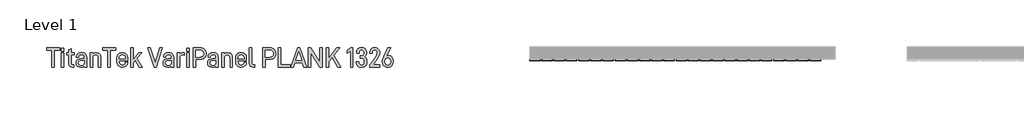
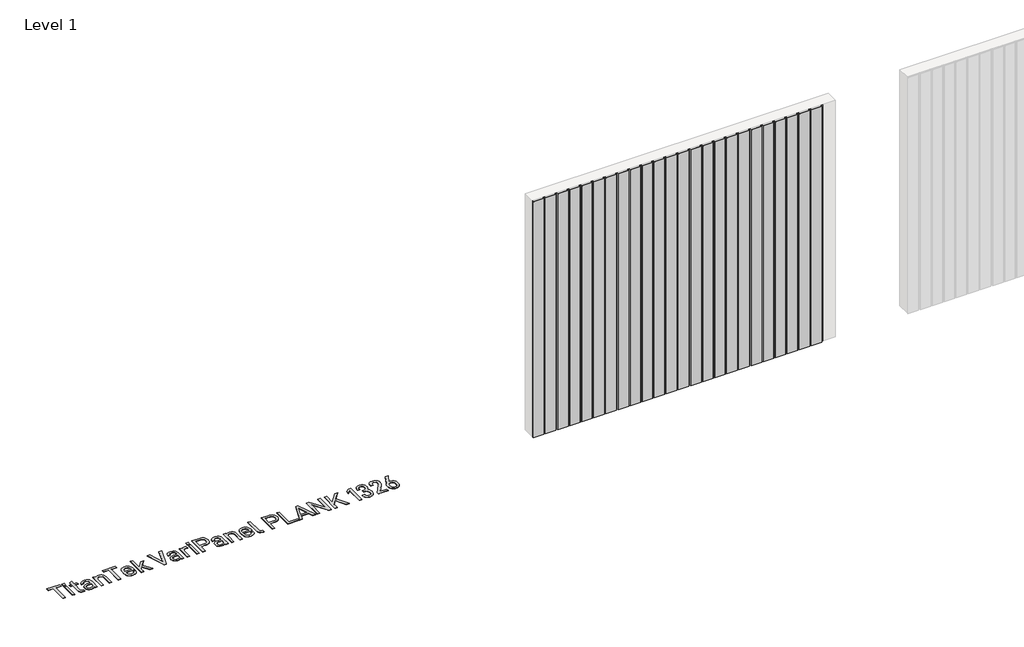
# One storey, part 20 of 33: 2 proxies.
"""IFC4 building model written with IfcOpenShell, lengths in millimetres."""

from ifc_helpers import new_model, si_unit, origin, origin_with_axes, place, context, project, spatial, polyline, outline, extrude, transform, mapped, element, save
from components import aluminum_slate_gray_b45d79fe

model = new_model("IFC4")

# Units and contexts
model_context = context("Model", 3, world=origin())
ifc_project = project(units=[si_unit("LENGTHUNIT", "METRE", prefix="MILLI")], contexts=[model_context])

# Site, building, storey
site = spatial("IfcSite", under=ifc_project)
building = spatial("IfcBuilding", under=site)
storey = spatial("IfcBuildingStorey", under=building, Name="Level 1", Elevation=0.0)

# Proxies
placement = place(None, origin())
element("IfcBuildingElementProxy", 1, Name="600mm Arial 2", ObjectType="600mm Arial 2", at=placement, inside=storey, context=model_context, shape_type="SweptSolid", body=[
    extrude(outline(polyline([(-9914.9924556, 62220.4128343), (-9914.9924556, 61952.9873502), (-9954.4439015, 61952.9873502), (-9954.4439015, 62220.4128343), (-10038.8787304, 62220.4128343), (-10038.8787304, 62257.3166776), (-9830.5576267, 62257.3166776), (-9830.5576267, 62220.4128343), (-9914.9924556, 62220.4128343)])), origin_with_axes(), (0.0, 0.0, 1.0), 5.0),
    extrude(outline(polyline([(-9763.1553408, 62253.0221475), (-9763.1553408, 62205.8551051), (-9802.6067867, 62205.8551051), (-9802.6067867, 62253.0221475), (-9763.1553408, 62253.0221475)])), origin_with_axes(), (0.0, 0.0, 1.0), 5.0),
    extrude(outline(polyline([(-9764.0288046, 62178.8505176), (-9764.0288046, 61952.9873502), (-9801.733323, 61952.9873502), (-9801.733323, 62178.8505176), (-9764.0288046, 62178.8505176)])), origin_with_axes(), (0.0, 0.0, 1.0), 5.0),
    extrude(outline(polyline([(-9648.294858, 62012.601251), (-9646.8208879, 62001.5191797), (-9642.3989777, 61993.6034145), (-9635.0291273, 61988.8539554), (-9624.7113368, 61987.2708023), (-9603.2386864, 61987.2708023), (-9603.2386864, 61952.9873502), (-9629.3698101, 61952.9873502), (-9653.1535001, 61956.9543314), (-9671.3688587, 61968.855275), (-9682.6692959, 61987.3981825), (-9686.4361083, 62011.2910554), (-9686.4361083, 62147.1146681), (-9720.2828285, 62147.1146681), (-9720.2828285, 62178.8505176), (-9686.4361083, 62178.8505176), (-9686.4361083, 62226.8910237), (-9648.294858, 62244.8698192), (-9648.294858, 62178.8505176), (-9599.3808881, 62178.8505176), (-9599.3808881, 62147.1146681), (-9648.294858, 62147.1146681), (-9648.294858, 62012.601251)])), origin_with_axes(), (0.0, 0.0, 1.0), 5.0),
    extrude(outline(polyline([(-9422.8684225, 62162.1091291), (-9413.2830677, 62151.3409589), (-9406.4363858, 62138.2526505), (-9400.9590402, 62105.1156196), (-9400.9590402, 61952.9873502), (-9438.2996154, 61952.9873502), (-9438.2996154, 61969.2920069), (-9456.7151427, 61956.8451485), (-9473.7476858, 61952.0410978), (-9493.9829293, 61950.4397476), (-9526.0281305, 61954.7160806), (-9550.1029751, 61967.5450794), (-9565.2248162, 61989.3270816), (-9570.2654299, 62018.5699199), (-9565.1338304, 62046.2114081), (-9549.7390318, 62067.4111012), (-9525.063681, 62080.6222403), (-9493.1094655, 62085.0259534), (-9438.7363472, 62085.0259534), (-9438.7363472, 62105.5523515), (-9441.6296959, 62124.441005), (-9450.3097419, 62138.1616647), (-9464.2305704, 62146.1866129), (-9483.7197302, 62148.8615956), (-9502.2262434, 62146.6051476), (-9515.819523, 62139.8358036), (-9524.1720201, 62129.4816187), (-9526.9561857, 62115.4516073), (-9526.9561857, 62109.8468816), (-9563.8600291, 62109.8468816), (-9563.8600291, 62116.2522824), (-9558.4008807, 62143.2932642), (-9542.0234354, 62164.2927885), (-9516.8203668, 62177.4493362), (-9484.1564621, 62181.8348521), (-9448.6719974, 62176.9034213), (-9434.5600987, 62170.7391329), (-9422.8684225, 62162.1091291)]), holes=[polyline([(-9450.6736851, 61994.5496669), (-9441.7206817, 62009.4531421), (-9438.7363472, 62031.0167784), (-9438.7363472, 62054.9642428), (-9488.8149354, 62054.9642428), (-9507.9538, 62052.7168933), (-9521.6244175, 62045.974845), (-9529.826788, 62034.7380979), (-9532.5609115, 62019.0066518), (-9529.8540837, 62003.0522906), (-9521.7336004, 61991.6563182), (-9508.1994616, 61984.8187348), (-9489.2516673, 61982.5395404), (-9466.104878, 61985.542072), (-9450.6736851, 61994.5496669)])]), origin_with_axes(), (0.0, 0.0, 1.0), 5.0),
    extrude(outline(polyline([(-9306.6977441, 62178.8505176), (-9306.6977441, 62160.4349903), (-9288.2822167, 62173.6825238), (-9271.1222935, 62179.4692211), (-9252.2518372, 62181.3981202), (-9219.9154813, 62175.9389718), (-9206.7907787, 62169.1150363), (-9195.6950595, 62159.5615265), (-9187.0650557, 62147.9790333), (-9180.9007673, 62134.1946835), (-9175.9693365, 62100.0204144), (-9175.9693365, 61952.9873502), (-9213.673855, 61952.9873502), (-9213.673855, 62095.7258843), (-9216.6763866, 62118.1083928), (-9225.6839815, 62133.8671346), (-9240.3781893, 62143.4752358), (-9259.567096, 62146.6779363), (-9278.7378056, 62143.4752358), (-9293.3774219, 62133.8671346), (-9303.0401146, 62117.453295), (-9306.2610122, 62095.7258843), (-9306.2610122, 61952.9873502), (-9343.9655306, 61952.9873502), (-9343.9655306, 62178.8505176), (-9306.6977441, 62178.8505176)])), origin_with_axes(), (0.0, 0.0, 1.0), 5.0),
    extrude(outline(polyline([(-9025.2240514, 62220.4128343), (-9025.2240514, 61952.9873502), (-9064.6754974, 61952.9873502), (-9064.6754974, 62220.4128343), (-9149.1103263, 62220.4128343), (-9149.1103263, 62257.3166776), (-8940.7892225, 62257.3166776), (-8940.7892225, 62220.4128343), (-9025.2240514, 62220.4128343)])), origin_with_axes(), (0.0, 0.0, 1.0), 5.0),
    extrude(outline(polyline([(-8884.5235994, 62047.2486463), (-8881.1025331, 62017.8329349), (-8870.8393341, 61998.8805913), (-8854.3527058, 61988.5900965), (-8832.2613519, 61985.1599316), (-8812.990558, 61987.7257314), (-8798.8513635, 61995.4231306), (-8790.1713175, 62007.1966941), (-8787.2779689, 62022.86445), (-8787.2779689, 62028.3963871), (-8750.3741256, 62028.3963871), (-8750.3741256, 62021.9909863), (-8756.0516399, 61992.8391337), (-8763.1485329, 61980.528754), (-8773.084183, 61969.7287387), (-8799.7976159, 61955.2619954), (-8834.3722226, 61950.4397476), (-8853.3222916, 61951.9387388), (-8870.2843206, 61956.4357123), (-8885.2583098, 61963.9306682), (-8898.2442591, 61974.4236064), (-8908.7371973, 61988.0237099), (-8916.2321532, 62004.8401617), (-8920.7291267, 62024.8729617), (-8922.2281179, 62048.1221101), (-8922.2281179, 62085.8266285), (-8920.7314014, 62108.5321367), (-8916.2412518, 62128.1714231), (-8908.7576691, 62144.7444879), (-8898.2806535, 62158.2513309), (-8885.4971476, 62168.5691214), (-8870.7301511, 62175.9389718), (-8853.979664, 62180.360882), (-8835.2456864, 62181.8348521), (-8816.8438069, 62180.360882), (-8800.2161506, 62175.9389718), (-8785.3627176, 62168.5691214), (-8772.2835079, 62158.2513309), (-8761.9657174, 62144.9082623), (-8754.595867, 62128.389789), (-8750.1739568, 62108.6959111), (-8748.6999867, 62085.8266285), (-8748.6999867, 62055.8377065), (-8884.5235994, 62055.8377065), (-8884.5235994, 62047.2486463)]), holes=[polyline([(-8871.2760659, 62133.4304027), (-8881.2117161, 62115.30603), (-8884.5235994, 62086.7000923), (-8786.4045051, 62086.2633604), (-8786.4045051, 62089.6844267), (-8789.6254027, 62116.9255774), (-8799.2880954, 62134.3038665), (-8814.9012599, 62143.5844188), (-8835.2456864, 62146.6779363), (-8855.60831, 62143.3660529), (-8871.2760659, 62133.4304027)])]), origin_with_axes(), (0.0, 0.0, 1.0), 5.0),
    extrude(outline(polyline([(-8663.391694, 62020.3168474), (-8663.391694, 61952.9873502), (-8701.0962125, 61952.9873502), (-8701.0962125, 62257.3166776), (-8663.391694, 62257.3166776), (-8663.391694, 62070.8321675), (-8575.0990669, 62178.8505176), (-8528.3687564, 62178.8505176), (-8602.5403863, 62091.8680861), (-8517.6688255, 61952.9873502), (-8563.5256722, 61952.9873502), (-8627.7980463, 62062.6798392), (-8663.391694, 62020.3168474)])), origin_with_axes(), (0.0, 0.0, 1.0), 5.0),
    extrude(outline(polyline([(-8240.5624516, 62257.3166776), (-8199.0001349, 62257.3166776), (-8298.4294248, 61952.9873502), (-8330.1652743, 61952.9873502), (-8429.1578324, 62257.3166776), (-8387.5955157, 62257.3166776), (-8313.8606177, 62022.86445), (-8240.5624516, 62257.3166776)])), origin_with_axes(), (0.0, 0.0, 1.0), 5.0),
    extrude(outline(polyline([(-8039.3018464, 62162.1091291), (-8029.7164916, 62151.3409589), (-8022.8698097, 62138.2526505), (-8017.3924641, 62105.1156196), (-8017.3924641, 61952.9873502), (-8054.7330393, 61952.9873502), (-8054.7330393, 61969.2920069), (-8073.1485666, 61956.8451485), (-8090.1811097, 61952.0410978), (-8110.4163532, 61950.4397476), (-8142.4615544, 61954.7160806), (-8166.536399, 61967.5450794), (-8181.6582401, 61989.3270816), (-8186.6988538, 62018.5699199), (-8181.5672543, 62046.2114081), (-8166.1724557, 62067.4111012), (-8141.4971049, 62080.6222403), (-8109.5428894, 62085.0259534), (-8055.1697712, 62085.0259534), (-8055.1697712, 62105.5523515), (-8058.0631198, 62124.441005), (-8066.7431658, 62138.1616647), (-8080.6639943, 62146.1866129), (-8100.1531542, 62148.8615956), (-8118.6596673, 62146.6051476), (-8132.2529469, 62139.8358036), (-8140.605444, 62129.4816187), (-8143.3896097, 62115.4516073), (-8143.3896097, 62109.8468816), (-8180.293453, 62109.8468816), (-8180.293453, 62116.2522824), (-8174.8343046, 62143.2932642), (-8158.4568593, 62164.2927885), (-8133.2537908, 62177.4493362), (-8100.589886, 62181.8348521), (-8065.1054213, 62176.9034213), (-8050.9935226, 62170.7391329), (-8039.3018464, 62162.1091291)]), holes=[polyline([(-8067.107109, 61994.5496669), (-8058.1541056, 62009.4531421), (-8055.1697712, 62031.0167784), (-8055.1697712, 62054.9642428), (-8105.2483594, 62054.9642428), (-8124.3872239, 62052.7168933), (-8138.0578414, 62045.974845), (-8146.2602119, 62034.7380979), (-8148.9943354, 62019.0066518), (-8146.2875076, 62003.0522906), (-8138.1670243, 61991.6563182), (-8124.6328855, 61984.8187348), (-8105.6850912, 61982.5395404), (-8082.5383019, 61985.542072), (-8067.107109, 61994.5496669)])]), origin_with_axes(), (0.0, 0.0, 1.0), 5.0),
    extrude(outline(polyline([(-7870.4321886, 62181.8348521), (-7850.2697337, 62179.7239814), (-7850.2697337, 62140.7092673), (-7876.8375894, 62146.313993), (-7895.1712295, 62142.7746451), (-7909.8472402, 62132.1566015), (-7919.4826371, 62115.7518604), (-7922.6944361, 62094.8524206), (-7922.6944361, 61952.9873502), (-7960.3989546, 61952.9873502), (-7960.3989546, 62178.8505176), (-7923.131168, 62178.8505176), (-7923.131168, 62159.1247947), (-7905.5891044, 62173.3185806), (-7889.4846166, 62179.7057842), (-7870.4321886, 62181.8348521)])), origin_with_axes(), (0.0, 0.0, 1.0), 5.0),
    extrude(outline(polyline([(-7773.9872331, 62253.0221475), (-7773.9872331, 62205.8551051), (-7813.438679, 62205.8551051), (-7813.438679, 62253.0221475), (-7773.9872331, 62253.0221475)])), origin_with_axes(), (0.0, 0.0, 1.0), 5.0),
    extrude(outline(polyline([(-7774.8606969, 62178.8505176), (-7774.8606969, 61952.9873502), (-7812.5652153, 61952.9873502), (-7812.5652153, 62178.8505176), (-7774.8606969, 62178.8505176)])), origin_with_axes(), (0.0, 0.0, 1.0), 5.0),
    extrude(outline(polyline([(-7529.6357497, 62233.2964245), (-7518.2033831, 62219.8396237), (-7510.0374069, 62203.926206), (-7505.1378212, 62185.5561716), (-7503.504626, 62164.7295204), (-7505.1651169, 62145.044741), (-7510.1465899, 62127.5527196), (-7518.4490448, 62112.2534562), (-7530.0724816, 62099.1469507), (-7544.1297888, 62088.6380899), (-7560.6073184, 62081.1317609), (-7579.5050706, 62076.6279634), (-7600.8230452, 62075.1266976), (-7671.5008201, 62075.1266976), (-7671.5008201, 61952.9873502), (-7711.3889979, 61952.9873502), (-7711.3889979, 62257.3166776), (-7600.8230452, 62257.3166776), (-7579.6415493, 62255.8154118), (-7560.7165014, 62251.3116143), (-7544.0479016, 62243.8052853), (-7529.6357497, 62233.2964245)]), holes=[polyline([(-7558.3872648, 62125.2780744), (-7547.141419, 62141.5827311), (-7543.3928038, 62164.7295204), (-7547.250602, 62189.3502798), (-7558.8239966, 62206.7285689), (-7577.8946218, 62216.9917679), (-7603.3706478, 62220.4128343), (-7671.5008201, 62220.4128343), (-7671.5008201, 62112.0305409), (-7603.3706478, 62112.0305409), (-7577.130341, 62115.3424243), (-7558.3872648, 62125.2780744)])]), origin_with_axes(), (0.0, 0.0, 1.0), 5.0),
    extrude(outline(polyline([(-7331.2139018, 62162.1091291), (-7321.628547, 62151.3409589), (-7314.781865, 62138.2526505), (-7309.3045194, 62105.1156196), (-7309.3045194, 61952.9873502), (-7346.6450946, 61952.9873502), (-7346.6450946, 61969.2920069), (-7365.060622, 61956.8451485), (-7382.093165, 61952.0410978), (-7402.3284085, 61950.4397476), (-7434.3736098, 61954.7160806), (-7458.4484543, 61967.5450794), (-7473.5702954, 61989.3270816), (-7478.6109091, 62018.5699199), (-7473.4793096, 62046.2114081), (-7458.0845111, 62067.4111012), (-7433.4091602, 62080.6222403), (-7401.4549448, 62085.0259534), (-7347.0818265, 62085.0259534), (-7347.0818265, 62105.5523515), (-7349.9751752, 62124.441005), (-7358.6552212, 62138.1616647), (-7372.5760496, 62146.1866129), (-7392.0652095, 62148.8615956), (-7410.5717226, 62146.6051476), (-7424.1650022, 62139.8358036), (-7432.5174993, 62129.4816187), (-7435.301665, 62115.4516073), (-7435.301665, 62109.8468816), (-7472.2055083, 62109.8468816), (-7472.2055083, 62116.2522824), (-7466.7463599, 62143.2932642), (-7450.3689146, 62164.2927885), (-7425.1658461, 62177.4493362), (-7392.5019414, 62181.8348521), (-7357.0174766, 62176.9034213), (-7342.905578, 62170.7391329), (-7331.2139018, 62162.1091291)]), holes=[polyline([(-7359.0191644, 61994.5496669), (-7350.066161, 62009.4531421), (-7347.0818265, 62031.0167784), (-7347.0818265, 62054.9642428), (-7397.1604147, 62054.9642428), (-7416.2992792, 62052.7168933), (-7429.9698967, 62045.974845), (-7438.1722672, 62034.7380979), (-7440.9063907, 62019.0066518), (-7438.199563, 62003.0522906), (-7430.0790797, 61991.6563182), (-7416.5449409, 61984.8187348), (-7397.5971466, 61982.5395404), (-7374.4503573, 61985.542072), (-7359.0191644, 61994.5496669)])]), origin_with_axes(), (0.0, 0.0, 1.0), 5.0),
    extrude(outline(polyline([(-7215.0432233, 62178.8505176), (-7215.0432233, 62160.4349903), (-7196.627696, 62173.6825238), (-7179.4677728, 62179.4692211), (-7160.5973164, 62181.3981202), (-7128.2609606, 62175.9389718), (-7115.1362579, 62169.1150363), (-7104.0405387, 62159.5615265), (-7095.410535, 62147.9790333), (-7089.2462465, 62134.1946835), (-7084.3148158, 62100.0204144), (-7084.3148158, 61952.9873502), (-7122.0193342, 61952.9873502), (-7122.0193342, 62095.7258843), (-7125.0218659, 62118.1083928), (-7134.0294607, 62133.8671346), (-7148.7236686, 62143.4752358), (-7167.9125753, 62146.6779363), (-7187.0832848, 62143.4752358), (-7201.7229012, 62133.8671346), (-7211.3855939, 62117.453295), (-7214.6064915, 62095.7258843), (-7214.6064915, 61952.9873502), (-7252.3110099, 61952.9873502), (-7252.3110099, 62178.8505176), (-7215.0432233, 62178.8505176)])), origin_with_axes(), (0.0, 0.0, 1.0), 5.0),
    extrude(outline(polyline([(-6997.8419048, 62047.2486463), (-6994.4208384, 62017.8329349), (-6984.1576394, 61998.8805913), (-6967.6710112, 61988.5900965), (-6945.5796572, 61985.1599316), (-6926.3088633, 61987.7257314), (-6912.1696689, 61995.4231306), (-6903.4896229, 62007.1966941), (-6900.5962742, 62022.86445), (-6900.5962742, 62028.3963871), (-6863.6924309, 62028.3963871), (-6863.6924309, 62021.9909863), (-6869.3699452, 61992.8391337), (-6876.4668382, 61980.528754), (-6886.4024883, 61969.7287387), (-6913.1159213, 61955.2619954), (-6947.6905279, 61950.4397476), (-6966.6405969, 61951.9387388), (-6983.602626, 61956.4357123), (-6998.5766152, 61963.9306682), (-7011.5625645, 61974.4236064), (-7022.0555027, 61988.0237099), (-7029.5504585, 62004.8401617), (-7034.047432, 62024.8729617), (-7035.5464232, 62048.1221101), (-7035.5464232, 62085.8266285), (-7034.0497067, 62108.5321367), (-7029.5595571, 62128.1714231), (-7022.0759745, 62144.7444879), (-7011.5989588, 62158.2513309), (-6998.8154529, 62168.5691214), (-6984.0484564, 62175.9389718), (-6967.2979694, 62180.360882), (-6948.5639917, 62181.8348521), (-6930.1621122, 62180.360882), (-6913.534456, 62175.9389718), (-6898.681023, 62168.5691214), (-6885.6018132, 62158.2513309), (-6875.2840227, 62144.9082623), (-6867.9141723, 62128.389789), (-6863.4922621, 62108.6959111), (-6862.018292, 62085.8266285), (-6862.018292, 62055.8377065), (-6997.8419048, 62055.8377065), (-6997.8419048, 62047.2486463)]), holes=[polyline([(-6984.5943713, 62133.4304027), (-6994.5300214, 62115.30603), (-6997.8419048, 62086.7000923), (-6899.7228105, 62086.2633604), (-6899.7228105, 62089.6844267), (-6902.943708, 62116.9255774), (-6912.6064007, 62134.3038665), (-6928.2195652, 62143.5844188), (-6948.5639917, 62146.6779363), (-6968.9266153, 62143.3660529), (-6984.5943713, 62133.4304027)])]), origin_with_axes(), (0.0, 0.0, 1.0), 5.0),
    extrude(outline(polyline([(-6799.4200568, 61968.855275), (-6810.6659025, 61988.362632), (-6814.4145178, 62014.2753899), (-6814.4145178, 62257.3166776), (-6776.7099994, 62257.3166776), (-6776.7099994, 62016.0223174), (-6775.3270151, 62002.6110094), (-6771.1780623, 61994.112935), (-6764.1903523, 61989.6364333), (-6753.5632101, 61988.1442661), (-6731.7266164, 61988.1442661), (-6731.7266164, 61952.9873502), (-6756.5475445, 61952.9873502), (-6781.4230642, 61956.9543314), (-6799.4200568, 61968.855275)])), origin_with_axes(), (0.0, 0.0, 1.0), 5.0),
    extrude(outline(polyline([(-6420.9190995, 62233.2964245), (-6409.4867329, 62219.8396237), (-6401.3207567, 62203.926206), (-6396.421171, 62185.5561716), (-6394.7879758, 62164.7295204), (-6396.4484667, 62145.044741), (-6401.4299397, 62127.5527196), (-6409.7323946, 62112.2534562), (-6421.3558314, 62099.1469507), (-6435.4131386, 62088.6380899), (-6451.8906682, 62081.1317609), (-6470.7884204, 62076.6279634), (-6492.106395, 62075.1266976), (-6562.7841699, 62075.1266976), (-6562.7841699, 61952.9873502), (-6602.6723477, 61952.9873502), (-6602.6723477, 62257.3166776), (-6492.106395, 62257.3166776), (-6470.9248991, 62255.8154118), (-6451.9998512, 62251.3116143), (-6435.3312514, 62243.8052853), (-6420.9190995, 62233.2964245)]), holes=[polyline([(-6449.6706146, 62125.2780744), (-6438.4247688, 62141.5827311), (-6434.6761536, 62164.7295204), (-6438.5339518, 62189.3502798), (-6450.1073464, 62206.7285689), (-6469.1779716, 62216.9917679), (-6494.6539976, 62220.4128343), (-6562.7841699, 62220.4128343), (-6562.7841699, 62112.0305409), (-6494.6539976, 62112.0305409), (-6468.4136908, 62115.3424243), (-6449.6706146, 62125.2780744)])]), origin_with_axes(), (0.0, 0.0, 1.0), 5.0),
    extrude(outline(polyline([(-6315.8850839, 62257.3166776), (-6315.8850839, 61989.8184049), (-6168.4880765, 61989.8184049), (-6168.4880765, 61952.9873502), (-6355.7732617, 61952.9873502), (-6355.7732617, 62257.3166776), (-6315.8850839, 62257.3166776)])), origin_with_axes(), (0.0, 0.0, 1.0), 5.0),
    extrude(outline(polyline([(-6093.6613488, 62024.1746457), (-6118.482277, 61952.9873502), (-6160.4813255, 61952.9873502), (-6049.9153728, 62257.3166776), (-6017.81558, 62257.3166776), (-5907.1768387, 61952.9873502), (-5949.1758872, 61952.9873502), (-5974.069604, 62024.1746457), (-6093.6613488, 62024.1746457)]), holes=[polyline([(-6034.047448, 62196.4653699), (-6081.6512223, 62059.2587729), (-5986.0797306, 62059.2587729), (-6034.047448, 62196.4653699)])]), origin_with_axes(), (0.0, 0.0, 1.0), 5.0),
    extrude(outline(polyline([(-5696.3081323, 62257.3166776), (-5656.4199545, 62257.3166776), (-5656.4199545, 61952.9873502), (-5694.1972616, 61952.9873502), (-5840.7208052, 62181.3981202), (-5840.7208052, 61952.9873502), (-5880.608983, 61952.9873502), (-5880.608983, 62257.3166776), (-5842.9044646, 62257.3166776), (-5696.3081323, 62029.7065827), (-5696.3081323, 62257.3166776)])), origin_with_axes(), (0.0, 0.0, 1.0), 5.0),
    extrude(outline(polyline([(-5556.5539327, 62036.9854473), (-5556.5539327, 61952.9873502), (-5596.4421105, 61952.9873502), (-5596.4421105, 62257.3166776), (-5556.5539327, 62257.3166776), (-5556.5539327, 62093.1054931), (-5426.262257, 62257.3166776), (-5377.8578077, 62257.3166776), (-5475.1762269, 62137.288201), (-5365.8476812, 61952.9873502), (-5412.5779917, 61952.9873502), (-5500.8706188, 62105.5523515), (-5556.5539327, 62036.9854473)])), origin_with_axes(), (0.0, 0.0, 1.0), 5.0),
    extrude(outline(polyline([(-5259.8674131, 62170.2614574), (-5259.8674131, 62216.1183042), (-5206.2949699, 62257.3166776), (-5169.4639153, 62257.3166776), (-5169.4639153, 61952.9873502), (-5208.9153612, 61952.9873502), (-5208.9153612, 62208.4027077), (-5259.8674131, 62170.2614574)])), origin_with_axes(), (0.0, 0.0, 1.0), 5.0),
    extrude(outline(polyline([(-5093.1814146, 61968.855275), (-5102.9259946, 61980.1466136), (-5109.8864088, 61993.0574997), (-5115.4547402, 62023.7379138), (-5115.4547402, 62034.8745766), (-5075.5665624, 62034.8745766), (-5075.5665624, 62024.9753208), (-5072.7823967, 62008.2703266), (-5064.4298996, 61995.8598625), (-5051.0367888, 61987.8349143), (-5033.130782, 61985.1599316), (-5014.5150859, 61988.253449), (-5000.5942574, 61997.5340014), (-4991.9142114, 62012.6558425), (-4989.0208628, 62032.2541853), (-4989.0208628, 62043.3908481), (-4992.1325774, 62063.5715001), (-5001.4677212, 62079.4212277), (-5015.8980701, 62089.0839204), (-5035.3144414, 62092.304818), (-5055.0401643, 62092.304818), (-5055.0401643, 62129.1358727), (-5035.7511732, 62129.1358727), (-5018.3910813, 62132.1384043), (-5004.8887875, 62141.1459992), (-4996.5362904, 62155.5035595), (-4993.7521247, 62173.6825238), (-4993.7521247, 62182.271584), (-4996.4271074, 62200.1775908), (-5004.4520556, 62213.5707016), (-5017.4084345, 62222.2507476), (-5034.0042457, 62225.1440962), (-5050.7092399, 62222.4691135), (-5063.119704, 62214.4441653), (-5070.8716948, 62201.5787722), (-5073.4556917, 62185.2559184), (-5073.4556917, 62174.1192557), (-5112.0336739, 62174.1192557), (-5112.0336739, 62186.1293822), (-5106.6655112, 62216.9917679), (-5099.955308, 62229.857161), (-5090.5610234, 62241.012021), (-5079.274234, 62249.9923201), (-5065.940264, 62256.4068195), (-5033.130782, 62261.5384191), (-5000.5760602, 62256.2976366), (-4987.1784002, 62249.7466585), (-4975.7005406, 62240.5752891), (-4966.3381011, 62229.0155423), (-4959.6506442, 62215.7361638), (-4954.3006788, 62184.0185115), (-4954.3006788, 62174.5559875), (-4957.0848445, 62153.1379286), (-4965.4373416, 62135.1773302), (-4975.1000343, 62123.0398236), (-4986.0365283, 62114.1414117), (-4971.9883197, 62104.2785502), (-4960.7060796, 62090.1211586), (-4952.0260336, 62069.0124514), (-4949.1326849, 62044.2643119), (-4949.1326849, 62034.0011128), (-4954.9193823, 61999.3901118), (-4962.1527539, 61984.7322983), (-4972.2794743, 61971.8396095), (-4984.9537972, 61961.7128891), (-4999.3932448, 61954.4795175), (-5033.5675139, 61948.6928201), (-5066.8865164, 61953.7334339), (-5093.1814146, 61968.855275)])), origin_with_axes(), (0.0, 0.0, 1.0), 5.0),
    extrude(outline(polyline([(-4801.7356776, 62127.4617338), (-4788.1969895, 62153.2471115), (-4783.6840934, 62176.7396469), (-4783.6840934, 62183.1450477), (-4786.3772733, 62200.9418716), (-4794.456813, 62214.0074335), (-4807.3040089, 62222.3599305), (-4823.5722712, 62225.1440962), (-4839.9497165, 62222.4691135), (-4852.2509976, 62214.4441653), (-4860.0029884, 62200.6143227), (-4862.5869853, 62181.3981202), (-4862.5869853, 62169.4607823), (-4901.9656426, 62169.4607823), (-4901.9656426, 62183.1450477), (-4896.6156771, 62214.7535171), (-4880.5657808, 62240.1385572), (-4854.9623747, 62256.1884536), (-4822.6988075, 62261.5384191), (-4800.5164677, 62258.9726193), (-4781.1364908, 62251.27522), (-4765.1775803, 62239.3924736), (-4753.2584396, 62223.3971687), (-4745.8885892, 62204.9998386), (-4743.4319724, 62184.0185115), (-4743.4319724, 62176.7396469), (-4745.1425056, 62158.0875565), (-4750.2741051, 62140.7092673), (-4769.9998281, 62105.9890833), (-4851.0135906, 61989.4544617), (-4743.4319724, 61989.4544617), (-4743.4319724, 61952.9873502), (-4901.9656426, 61952.9873502), (-4901.9656426, 61983.849736), (-4801.7356776, 62127.4617338)])), origin_with_axes(), (0.0, 0.0, 1.0), 5.0),
    extrude(outline(polyline([(-4553.3808187, 62113.2679479), (-4544.0183791, 62100.5663292), (-4537.3309223, 62086.0449944), (-4531.9809569, 62051.5431764), (-4531.9809569, 62036.9854473), (-4534.7651226, 62011.2546611), (-4543.1176196, 61989.8184049), (-4556.5107304, 61972.1671584), (-4573.5432735, 61959.3927511), (-4593.7967142, 61951.3678029), (-4616.8525177, 61948.6928201), (-4635.1770592, 61950.194086), (-4651.5727016, 61954.6978834), (-4666.0394449, 61962.2042125), (-4678.5772891, 61972.7130732), (-4688.6721644, 61985.3555511), (-4695.8827896, 62000.1361954), (-4700.2091648, 62017.0550063), (-4701.6512898, 62036.1119835), (-4701.6512898, 62050.7425013), (-4696.9928165, 62082.842294), (-4683.6724943, 62115.4516073), (-4613.4314513, 62257.3166776), (-4571.4324028, 62257.3166776), (-4632.7204424, 62132.556939), (-4629.2265874, 62133.8671346), (-4609.9375963, 62136.4147372), (-4578.4747043, 62130.6280399), (-4565.1316356, 62123.3946682), (-4553.3808187, 62113.2679479)]), holes=[polyline([(-4571.796346, 62035.3113084), (-4571.796346, 62049.8690376), (-4574.7988776, 62070.9777448), (-4583.8064725, 62086.2633604), (-4598.0730471, 62096.253602), (-4616.8525177, 62099.5836825), (-4635.0314819, 62096.362785), (-4649.3890423, 62086.7000923), (-4658.3966371, 62070.9777448), (-4661.3991688, 62050.3057694), (-4661.3991688, 62035.7480403), (-4658.3966371, 62014.40277), (-4649.3890423, 61998.4074651), (-4635.4591152, 61988.471815), (-4616.8161233, 61985.1599316), (-4598.0639485, 61988.471815), (-4583.8064725, 61998.4074651), (-4574.7988776, 62014.7303189), (-4571.796346, 62035.3113084)])]), origin_with_axes(), (0.0, 0.0, 1.0), 5.0),
])
aluminum_slate_gray_shape = aluminum_slate_gray_b45d79fe(model_context)
element("IfcBuildingElementProxy", 2, Name="TitanTek VariPanel PLANK 1326 : Aluminum Slate Gray", ObjectType="TitanTek VariPanel PLANK 1326 : Aluminum Slate Gray", at=placement, inside=storey, context=model_context, shape_type="MappedRepresentation", body=[
    mapped(aluminum_slate_gray_shape, transform((-2360.5897817, 62078.6095025, 0.0), x_axis=(1.0, 0.0, 0.0), y_axis=(0.0, 1.0, 0.0), z_axis=(0.0, 0.0, 1.0))),
])

save(model, "model.ifc")
